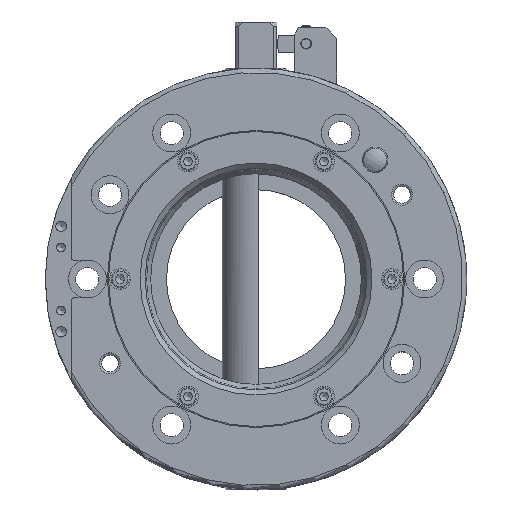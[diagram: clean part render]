
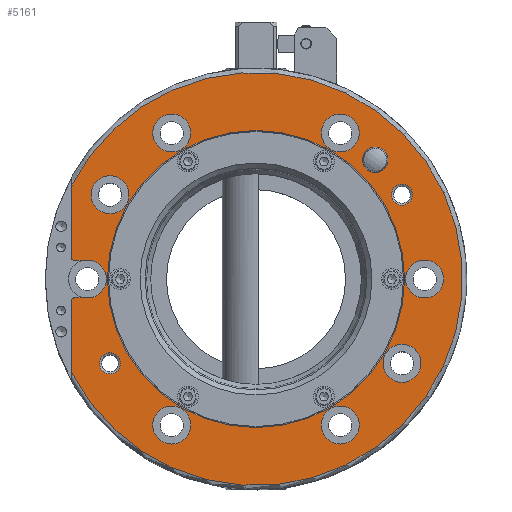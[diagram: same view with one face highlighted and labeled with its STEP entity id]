
A CAD part, top view. The second image highlights one B-rep face of the part: STEP entity #5161.
In plain terms, the highlighted planar face has unit normal (0, 0, 1).
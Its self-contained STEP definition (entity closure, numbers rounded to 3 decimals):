
#217=FACE_OUTER_BOUND('',#1351,.T.);
#503=CIRCLE('',#5534,70.5);
#518=CIRCLE('',#5560,5.);
#520=CIRCLE('',#5564,5.);
#536=CIRCLE('',#5585,98.);
#537=CIRCLE('',#5587,9.);
#538=CIRCLE('',#5588,1.);
#539=CIRCLE('',#5589,1.);
#540=CIRCLE('',#5590,9.);
#541=CIRCLE('',#5591,9.);
#542=CIRCLE('',#5592,9.);
#543=CIRCLE('',#5593,9.);
#544=CIRCLE('',#5594,9.);
#545=CIRCLE('',#5595,9.);
#546=CIRCLE('',#5596,9.);
#547=CIRCLE('',#5597,6.);
#782=PLANE('',#5586);
#1021=FACE_BOUND('',#1352,.T.);
#1022=FACE_BOUND('',#1353,.T.);
#1023=FACE_BOUND('',#1354,.T.);
#1024=FACE_BOUND('',#1355,.T.);
#1025=FACE_BOUND('',#1356,.T.);
#1026=FACE_BOUND('',#1357,.T.);
#1027=FACE_BOUND('',#1358,.T.);
#1028=FACE_BOUND('',#1359,.T.);
#1029=FACE_BOUND('',#1360,.T.);
#1030=FACE_BOUND('',#1361,.T.);
#1031=FACE_BOUND('',#1362,.T.);
#1351=EDGE_LOOP('',(#3571,#3572,#3573,#3574,#3575,#3576,#3577,#3578));
#1352=EDGE_LOOP('',(#3579));
#1353=EDGE_LOOP('',(#3580));
#1354=EDGE_LOOP('',(#3581));
#1355=EDGE_LOOP('',(#3582));
#1356=EDGE_LOOP('',(#3583));
#1357=EDGE_LOOP('',(#3584));
#1358=EDGE_LOOP('',(#3585));
#1359=EDGE_LOOP('',(#3586));
#1360=EDGE_LOOP('',(#3587));
#1361=EDGE_LOOP('',(#3588));
#1362=EDGE_LOOP('',(#3589));
#1869=LINE('',#8139,#2103);
#1870=LINE('',#8142,#2104);
#1871=LINE('',#8144,#2105);
#1872=LINE('',#8147,#2106);
#2103=VECTOR('',#6361,6.5);
#2104=VECTOR('',#6364,34.133);
#2105=VECTOR('',#6365,34.133);
#2106=VECTOR('',#6368,6.5);
#2356=VERTEX_POINT('',#7885);
#2371=VERTEX_POINT('',#7926);
#2373=VERTEX_POINT('',#7932);
#2393=VERTEX_POINT('',#8107);
#2394=VERTEX_POINT('',#8120);
#2395=VERTEX_POINT('',#8135);
#2396=VERTEX_POINT('',#8136);
#2397=VERTEX_POINT('',#8138);
#2398=VERTEX_POINT('',#8140);
#2399=VERTEX_POINT('',#8143);
#2400=VERTEX_POINT('',#8145);
#2401=VERTEX_POINT('',#8148);
#2402=VERTEX_POINT('',#8150);
#2403=VERTEX_POINT('',#8152);
#2404=VERTEX_POINT('',#8154);
#2405=VERTEX_POINT('',#8156);
#2406=VERTEX_POINT('',#8158);
#2407=VERTEX_POINT('',#8160);
#2408=VERTEX_POINT('',#8162);
#2843=EDGE_CURVE('',#2356,#2356,#503,.T.);
#2858=EDGE_CURVE('',#2371,#2371,#518,.T.);
#2860=EDGE_CURVE('',#2373,#2373,#520,.T.);
#2881=EDGE_CURVE('',#2393,#2394,#536,.T.);
#2883=EDGE_CURVE('',#2395,#2396,#537,.T.);
#2884=EDGE_CURVE('',#2396,#2397,#1869,.T.);
#2885=EDGE_CURVE('',#2397,#2398,#538,.T.);
#2886=EDGE_CURVE('',#2398,#2394,#1870,.T.);
#2887=EDGE_CURVE('',#2393,#2399,#1871,.T.);
#2888=EDGE_CURVE('',#2399,#2400,#539,.T.);
#2889=EDGE_CURVE('',#2400,#2395,#1872,.T.);
#2890=EDGE_CURVE('',#2401,#2401,#540,.T.);
#2891=EDGE_CURVE('',#2402,#2402,#541,.T.);
#2892=EDGE_CURVE('',#2403,#2403,#542,.T.);
#2893=EDGE_CURVE('',#2404,#2404,#543,.T.);
#2894=EDGE_CURVE('',#2405,#2405,#544,.T.);
#2895=EDGE_CURVE('',#2406,#2406,#545,.T.);
#2896=EDGE_CURVE('',#2407,#2407,#546,.T.);
#2897=EDGE_CURVE('',#2408,#2408,#547,.T.);
#3571=ORIENTED_EDGE('',*,*,#2883,.T.);
#3572=ORIENTED_EDGE('',*,*,#2884,.T.);
#3573=ORIENTED_EDGE('',*,*,#2885,.T.);
#3574=ORIENTED_EDGE('',*,*,#2886,.T.);
#3575=ORIENTED_EDGE('',*,*,#2881,.F.);
#3576=ORIENTED_EDGE('',*,*,#2887,.T.);
#3577=ORIENTED_EDGE('',*,*,#2888,.T.);
#3578=ORIENTED_EDGE('',*,*,#2889,.T.);
#3579=ORIENTED_EDGE('',*,*,#2890,.T.);
#3580=ORIENTED_EDGE('',*,*,#2891,.T.);
#3581=ORIENTED_EDGE('',*,*,#2892,.T.);
#3582=ORIENTED_EDGE('',*,*,#2893,.T.);
#3583=ORIENTED_EDGE('',*,*,#2894,.T.);
#3584=ORIENTED_EDGE('',*,*,#2895,.T.);
#3585=ORIENTED_EDGE('',*,*,#2896,.T.);
#3586=ORIENTED_EDGE('',*,*,#2860,.T.);
#3587=ORIENTED_EDGE('',*,*,#2858,.T.);
#3588=ORIENTED_EDGE('',*,*,#2897,.T.);
#3589=ORIENTED_EDGE('',*,*,#2843,.T.);
#5161=ADVANCED_FACE('',(#217,#1021,#1022,#1023,#1024,#1025,#1026,#1027,
#1028,#1029,#1030,#1031),#782,.F.);
#5534=AXIS2_PLACEMENT_3D('',#7886,#6251,#6252);
#5560=AXIS2_PLACEMENT_3D('',#7927,#6303,#6304);
#5564=AXIS2_PLACEMENT_3D('',#7933,#6311,#6312);
#5585=AXIS2_PLACEMENT_3D('',#8121,#6355,#6356);
#5586=AXIS2_PLACEMENT_3D('',#8134,#6357,#6358);
#5587=AXIS2_PLACEMENT_3D('',#8137,#6359,#6360);
#5588=AXIS2_PLACEMENT_3D('',#8141,#6362,#6363);
#5589=AXIS2_PLACEMENT_3D('',#8146,#6366,#6367);
#5590=AXIS2_PLACEMENT_3D('',#8149,#6369,#6370);
#5591=AXIS2_PLACEMENT_3D('',#8151,#6371,#6372);
#5592=AXIS2_PLACEMENT_3D('',#8153,#6373,#6374);
#5593=AXIS2_PLACEMENT_3D('',#8155,#6375,#6376);
#5594=AXIS2_PLACEMENT_3D('',#8157,#6377,#6378);
#5595=AXIS2_PLACEMENT_3D('',#8159,#6379,#6380);
#5596=AXIS2_PLACEMENT_3D('',#8161,#6381,#6382);
#5597=AXIS2_PLACEMENT_3D('',#8163,#6383,#6384);
#6251=DIRECTION('center_axis',(0.,0.,-1.));
#6252=DIRECTION('ref_axis',(-1.,0.,0.));
#6303=DIRECTION('center_axis',(0.,0.,-1.));
#6304=DIRECTION('ref_axis',(1.,0.,0.));
#6311=DIRECTION('center_axis',(0.,0.,-1.));
#6312=DIRECTION('ref_axis',(1.,0.,0.));
#6355=DIRECTION('center_axis',(0.,0.,-1.));
#6356=DIRECTION('ref_axis',(-1.,0.,0.));
#6357=DIRECTION('center_axis',(0.,0.,-1.));
#6358=DIRECTION('ref_axis',(-1.,0.,0.));
#6359=DIRECTION('center_axis',(0.,0.,-1.));
#6360=DIRECTION('ref_axis',(1.,0.,0.));
#6361=DIRECTION('',(-1.,0.,0.));
#6362=DIRECTION('center_axis',(0.,0.,1.));
#6363=DIRECTION('ref_axis',(0.,-1.,0.));
#6364=DIRECTION('',(0.,-1.,0.));
#6365=DIRECTION('',(0.,-1.,0.));
#6366=DIRECTION('center_axis',(0.,0.,1.));
#6367=DIRECTION('ref_axis',(1.,0.,0.));
#6368=DIRECTION('',(1.,0.,0.));
#6369=DIRECTION('center_axis',(0.,0.,-1.));
#6370=DIRECTION('ref_axis',(1.,0.,0.));
#6371=DIRECTION('center_axis',(0.,0.,-1.));
#6372=DIRECTION('ref_axis',(1.,0.,0.));
#6373=DIRECTION('center_axis',(0.,0.,-1.));
#6374=DIRECTION('ref_axis',(1.,0.,0.));
#6375=DIRECTION('center_axis',(0.,0.,-1.));
#6376=DIRECTION('ref_axis',(1.,0.,0.));
#6377=DIRECTION('center_axis',(0.,0.,-1.));
#6378=DIRECTION('ref_axis',(1.,0.,0.));
#6379=DIRECTION('center_axis',(0.,0.,-1.));
#6380=DIRECTION('ref_axis',(1.,0.,0.));
#6381=DIRECTION('center_axis',(0.,0.,-1.));
#6382=DIRECTION('ref_axis',(1.,0.,0.));
#6383=DIRECTION('center_axis',(0.,0.,-1.));
#6384=DIRECTION('ref_axis',(1.,0.,0.));
#7885=CARTESIAN_POINT('',(70.5,0.,32.5));
#7886=CARTESIAN_POINT('Origin',(0.,0.,32.5));
#7926=CARTESIAN_POINT('',(-64.282,-40.,32.5));
#7927=CARTESIAN_POINT('Origin',(-69.282,-40.,32.5));
#7932=CARTESIAN_POINT('',(74.282,40.,32.5));
#7933=CARTESIAN_POINT('Origin',(69.282,40.,32.5));
#8107=CARTESIAN_POINT('',(-87.5,44.133,32.5));
#8120=CARTESIAN_POINT('',(-87.5,-44.133,32.5));
#8121=CARTESIAN_POINT('Origin',(0.,0.,32.5));
#8134=CARTESIAN_POINT('Origin',(0.,0.,32.5));
#8135=CARTESIAN_POINT('',(-80.,9.,32.5));
#8136=CARTESIAN_POINT('',(-80.,-9.,32.5));
#8137=CARTESIAN_POINT('Origin',(-80.,0.,32.5));
#8138=CARTESIAN_POINT('',(-86.5,-9.,32.5));
#8139=CARTESIAN_POINT('',(-43.25,-9.,32.5));
#8140=CARTESIAN_POINT('',(-87.5,-10.,32.5));
#8141=CARTESIAN_POINT('Origin',(-86.5,-10.,32.5));
#8142=CARTESIAN_POINT('',(-87.5,-24.206,32.5));
#8143=CARTESIAN_POINT('',(-87.5,10.,32.5));
#8144=CARTESIAN_POINT('',(-87.5,5.,32.5));
#8145=CARTESIAN_POINT('',(-86.5,9.,32.5));
#8146=CARTESIAN_POINT('Origin',(-86.5,10.,32.5));
#8147=CARTESIAN_POINT('',(-40.,9.,32.5));
#8148=CARTESIAN_POINT('',(-60.282,40.,32.5));
#8149=CARTESIAN_POINT('Origin',(-69.282,40.,32.5));
#8150=CARTESIAN_POINT('',(49.,69.282,32.5));
#8151=CARTESIAN_POINT('Origin',(40.,69.282,32.5));
#8152=CARTESIAN_POINT('',(78.282,-40.,32.5));
#8153=CARTESIAN_POINT('Origin',(69.282,-40.,32.5));
#8154=CARTESIAN_POINT('',(-31.,-69.282,32.5));
#8155=CARTESIAN_POINT('Origin',(-40.,-69.282,32.5));
#8156=CARTESIAN_POINT('',(49.,-69.282,32.5));
#8157=CARTESIAN_POINT('Origin',(40.,-69.282,32.5));
#8158=CARTESIAN_POINT('',(89.,0.,32.5));
#8159=CARTESIAN_POINT('Origin',(80.,0.,32.5));
#8160=CARTESIAN_POINT('',(-31.,69.282,32.5));
#8161=CARTESIAN_POINT('Origin',(-40.,69.282,32.5));
#8162=CARTESIAN_POINT('',(62.569,56.569,32.5));
#8163=CARTESIAN_POINT('Origin',(56.569,56.569,32.5));
